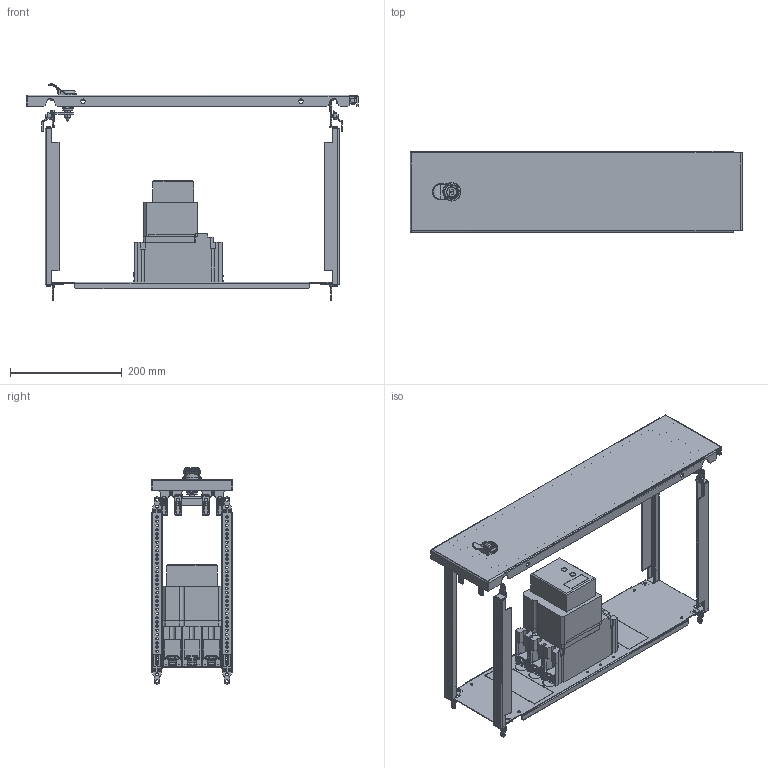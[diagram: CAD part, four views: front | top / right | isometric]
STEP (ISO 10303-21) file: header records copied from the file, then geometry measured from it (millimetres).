
FILE_DESCRIPTION(('CAx-IF Rec.Pracs.---Model Styling and Organization---1.2---2011-12-15','CAx-IF Rec.Pracs.---Geometric and Assembly Validation Properties---4.1---2014-06-16','CAx-IF Rec.Pracs.---PMI Polyline Presentation---2.0---2013-05-24'),'2;1');
FILE_NAME('R5PKEB7H62213 (F-MO).stp','2021-07-29T02:14:20+03:00',(''),(''),'STEP Interface 4.4 by CT CoreTechnologie','3D_Evolution4.4 by CT CoreTechnologie','');
FILE_SCHEMA(('AUTOMOTIVE_DESIGN { 1 0 10303 214 1 1 1 1 }'));
Length unit declared in the file: millimetre
Products named in the file (1): R5PKEB7H62213 (F-MO)
Bounding box: 594 x 145 x 386.9 mm (x, y, z)
Surface area: 820958.3 mm2 (no closed solid volume)
Topology: 0 solids, 77 shells, 2848 faces, 7854 edges, 5159 vertices
Faces by surface type: plane 1449, cylinder 1042, bspline 357
Entity records: 100877 total; most frequent: CARTESIAN_POINT 27031, ORIENTED_EDGE 15642, DIRECTION 14981, EDGE_CURVE 7821, VERTEX_POINT 5176, VECTOR 5157, LINE 5157, AXIS2_PLACEMENT_3D 4912
